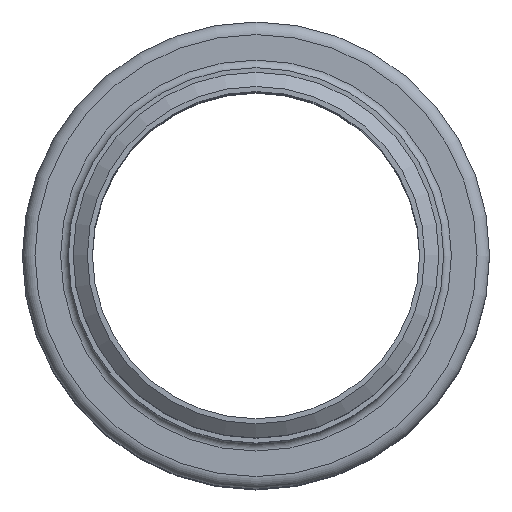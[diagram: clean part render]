
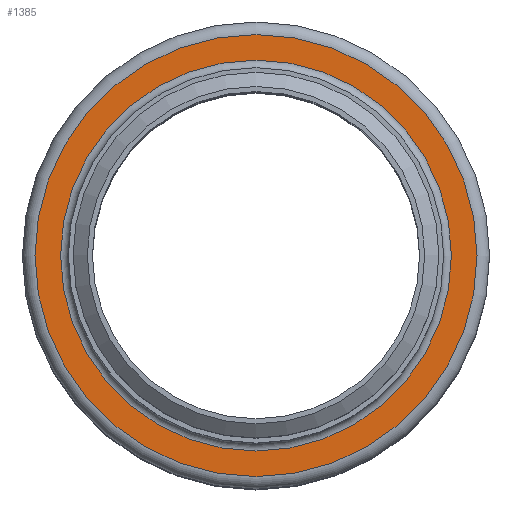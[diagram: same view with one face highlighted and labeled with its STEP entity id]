
A CAD part, top view. The second image highlights one B-rep face of the part: STEP entity #1385.
In plain terms, the highlighted planar face has unit normal (0, 0, 1).
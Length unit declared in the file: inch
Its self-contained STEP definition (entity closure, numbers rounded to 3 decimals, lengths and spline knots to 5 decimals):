
#155=FACE_BOUND('',#416,.T.);
#256=FACE_OUTER_BOUND('',#415,.T.);
#415=EDGE_LOOP('',(#1168));
#416=EDGE_LOOP('',(#1169));
#584=CIRCLE('',#1684,2.405);
#585=CIRCLE('',#1686,2.72);
#703=VERTEX_POINT('',#2631);
#704=VERTEX_POINT('',#2635);
#862=EDGE_CURVE('',#703,#703,#584,.T.);
#863=EDGE_CURVE('',#704,#704,#585,.T.);
#1168=ORIENTED_EDGE('',*,*,#863,.F.);
#1169=ORIENTED_EDGE('',*,*,#862,.T.);
#1284=PLANE('',#1685);
#1385=ADVANCED_FACE('',(#256,#155),#1284,.T.);
#1684=AXIS2_PLACEMENT_3D('',#2633,#2197,#2198);
#1685=AXIS2_PLACEMENT_3D('',#2634,#2199,#2200);
#1686=AXIS2_PLACEMENT_3D('',#2636,#2201,#2202);
#2197=DIRECTION('center_axis',(0.,0.,-1.));
#2198=DIRECTION('ref_axis',(1.,0.,0.));
#2199=DIRECTION('center_axis',(0.,0.,1.));
#2200=DIRECTION('ref_axis',(1.,0.,0.));
#2201=DIRECTION('center_axis',(0.,0.,-1.));
#2202=DIRECTION('ref_axis',(1.,0.,0.));
#2631=CARTESIAN_POINT('',(2.405,0.,-0.095));
#2633=CARTESIAN_POINT('Origin',(0.,0.,-0.095));
#2634=CARTESIAN_POINT('Origin',(0.,2.72,-0.095));
#2635=CARTESIAN_POINT('',(2.72,0.,-0.095));
#2636=CARTESIAN_POINT('Origin',(0.,0.,-0.095));
